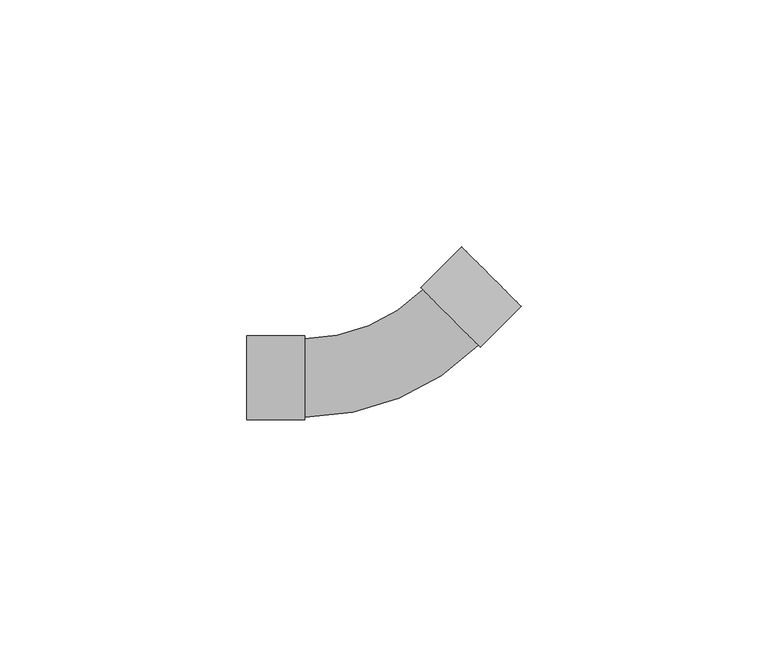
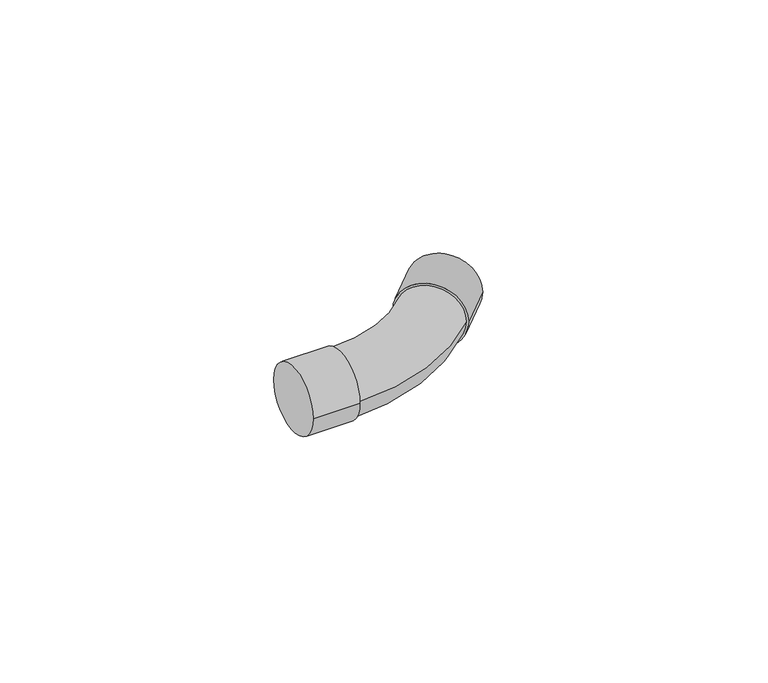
"""IFC4 building model written with IfcOpenShell, lengths in millimetres: pipe fitting geometry, Cotovelo - Soldado - CU : Padrão."""

from ifc_helpers import new_model, si_unit, point, frame, origin, place, context, project, spatial, circle_curve, ellipse_curve, trimmed, source, transform, mapped, element, save
from ifc_brep_helpers import plane_surface, cylinder_surface, revolved_surface, advanced_brep


def pipe_fitting_878c9596(model_context):
    return source(origin(), model_context, "Body", "AdvancedBrep", [
        advanced_brep(
        [(6.635943, 17.8577852, 0.0), (-17.3197, 7.935, 0.0), (-17.3197, -7.935, 0.0), (17.857754, 6.636027, 0.0), (-28.9786, -8.4937, 0.0), (-28.9786, 8.4937, 0.0), (-17.3197, -8.4937, 0.0), (-17.3197, 8.4937, 0.0), (14.4849494, 26.4969515, 0.0), (26.4968834, 14.485074, 0.0), (6.2408816, 18.2528449, 0.0), (18.2528155, 6.2409673, 0.0)],
        [
            (0, 1, circle_curve(frame((-17.3197, 41.8133157, 0.0), z_axis=(0.0, 0.0, -1.0), x_axis=(0.0, -1.0, 0.0)), 33.8783157)),
            (1, 2, circle_curve(frame((-17.3197, 0.0, 0.0), z_axis=(1.0, 0.0, 0.0), x_axis=(0.0, 1.0, 0.0)), 7.935)),
            (2, 3, circle_curve(frame((-17.3197, 41.8133157, 0.0), z_axis=(0.0, 0.0, 1.0), x_axis=(0.0, -1.0, 0.0)), 49.7483157)),
            (3, 0, circle_curve(frame((12.2468485, 12.2469061, 0.0), z_axis=(-0.7071051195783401, -0.7071084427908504, 0.0), x_axis=(-0.7071084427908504, 0.7071051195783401, 0.0)), 7.935)),
            (0, 3, circle_curve(frame((12.2468485, 12.2469061, 0.0), z_axis=(-0.7071051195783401, -0.7071084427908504, 0.0), x_axis=(-0.7071084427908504, 0.7071051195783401, 0.0)), 7.935)),
            (2, 1, circle_curve(frame((-17.3197, 0.0, 0.0), z_axis=(1.0, 0.0, 0.0), x_axis=(0.0, 1.0, 0.0)), 7.935)),
            (4, 5, circle_curve(frame((-28.9786, 0.0, 0.0), z_axis=(-1.0, 0.0, 0.0), x_axis=(0.0, 1.0, 0.0)), 8.4937)),
            (5, 4, circle_curve(frame((-28.9786, 0.0, 0.0), z_axis=(-1.0, 0.0, 0.0), x_axis=(0.0, 1.0, 0.0)), 8.4937)),
            (6, 7, circle_curve(frame((-17.3197, 0.0, 0.0), z_axis=(1.0, 0.0, 0.0), x_axis=(0.0, 1.0, 0.0)), 8.4937)),
            (7, 6, circle_curve(frame((-17.3197, 0.0, 0.0), z_axis=(1.0, 0.0, 0.0), x_axis=(0.0, 1.0, 0.0)), 8.4937)),
            (4, 6),
            (7, 5),
            (8, 9, circle_curve(frame((20.4909164, 20.4910127, 0.0), z_axis=(0.707105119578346, 0.7071084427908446, 0.0), x_axis=(0.7071084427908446, -0.707105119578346, 0.0)), 8.4937)),
            (9, 8, circle_curve(frame((20.4909164, 20.4910127, 0.0), z_axis=(0.707105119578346, 0.7071084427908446, 0.0), x_axis=(0.7071084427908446, -0.707105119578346, 0.0)), 8.4937)),
            (10, 11, circle_curve(frame((12.2468485, 12.2469061, 0.0), z_axis=(-0.707105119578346, -0.7071084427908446, 0.0), x_axis=(0.7071084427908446, -0.707105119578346, 0.0)), 8.4937)),
            (11, 10, circle_curve(frame((12.2468485, 12.2469061, 0.0), z_axis=(-0.707105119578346, -0.7071084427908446, 0.0), x_axis=(0.7071084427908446, -0.707105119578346, 0.0)), 8.4937)),
            (8, 10),
            (11, 9),
        ],
        [
            revolved_surface(trimmed(ellipse_curve(frame((-17.3197, 0.0, 0.0), z_axis=(-1.0, 0.0, 0.0), x_axis=(0.0, 1.0, 0.0)), 7.935, 7.935), [point((-17.3197, -7.935, 0.0))], [point((-17.3197, 7.935, 0.0))], True, "CARTESIAN"), (-17.3197, 41.8133157, 0.0), (0.0, 0.0, 1.0)),
            revolved_surface(trimmed(ellipse_curve(frame((-17.3197, 0.0, 0.0), z_axis=(-1.0, 0.0, 0.0), x_axis=(0.0, 1.0, 0.0)), 7.935, 7.935), [point((-17.3197, 7.935, 0.0))], [point((-17.3197, -7.935, 0.0))], True, "CARTESIAN"), (-17.3197, 41.8133157, 0.0), (0.0, 0.0, 1.0)),
            plane_surface(frame((-28.9786, 0.0, 0.0), z_axis=(-1.0, 0.0, 0.0), x_axis=(0.0, 0.0, 1.0))),
            plane_surface(frame((-17.3197, 0.0, 0.0), z_axis=(1.0, 0.0, 0.0), x_axis=(0.0, 0.0, 1.0))),
            cylinder_surface(frame((-28.9786, 0.0, 0.0), z_axis=(-1.0, 0.0, 0.0), x_axis=(0.0, 1.0, 0.0)), 8.4937),
            plane_surface(frame((20.4909164, 20.4910127, 0.0), z_axis=(0.707105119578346, 0.7071084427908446, 0.0), x_axis=(0.0, 0.0, 1.0))),
            plane_surface(frame((12.2468485, 12.2469061, 0.0), z_axis=(-0.707105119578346, -0.7071084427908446, 0.0), x_axis=(0.0, 0.0, 1.0))),
            cylinder_surface(frame((20.4909164, 20.4910127, 0.0), z_axis=(0.707105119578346, 0.7071084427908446, 0.0), x_axis=(0.7071084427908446, -0.707105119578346, 0.0)), 8.4937),
        ],
        [
            (0, [[1, 2, 3, 4]]),
            (1, [[-1, 5, -3, 6]]),
            (2, [[7, 8]]),
            (3, [[9, 10], [-2, -6]]),
            (4, [[-7, 11, -10, 12]]),
            (4, [[-8, -12, -9, -11]]),
            (5, [[13, 14]]),
            (6, [[15, 16], [-4, -5]]),
            (7, [[-13, 17, -16, 18]]),
            (7, [[-14, -18, -15, -17]]),
        ],
    ),
    ])


if __name__ == "__main__":
    model = new_model("IFC4")
    model_context = context("Model", 3, world=origin())
    ifc_project = project(units=[si_unit("LENGTHUNIT", "METRE", prefix="MILLI")], contexts=[model_context])
    site = spatial("IfcSite", under=ifc_project)
    building = spatial("IfcBuilding", under=site)
    placement = place(None, origin())
    pipe_fitting_shape = pipe_fitting_878c9596(model_context)
    element("IfcPipeFitting", 1, ObjectType="Cotovelo - Soldado - CU : Padrão", at=placement, inside=building, context=model_context, shape_type="MappedRepresentation", body=[
        mapped(pipe_fitting_shape, transform((0.0, 0.0, 0.0), x_axis=(1.0, 0.0, 0.0), y_axis=(0.0, 1.0, 0.0), z_axis=(0.0, 0.0, 1.0))),
    ])
    save(model, "model.ifc")
